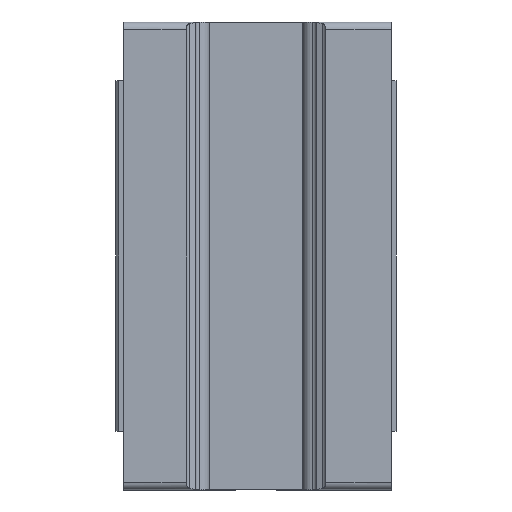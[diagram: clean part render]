
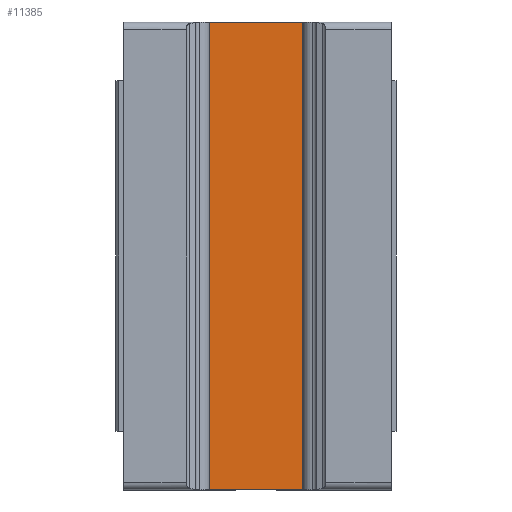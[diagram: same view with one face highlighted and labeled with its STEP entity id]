
A CAD part, front view. The second image highlights one B-rep face of the part: STEP entity #11385.
In plain terms, the highlighted planar face has unit normal (0, -1, 0).
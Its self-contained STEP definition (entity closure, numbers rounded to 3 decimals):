
#2135 = CARTESIAN_POINT ( 'NONE',  ( -8.834, 9., -10.05 ) ) ;
#2136 = DIRECTION ( 'NONE',  ( -1., 0., 0. ) ) ;
#2137 = VECTOR ( 'NONE', #2136, 1000. ) ;
#2138 = CARTESIAN_POINT ( 'NONE',  ( -9.2, 9., -10.05 ) ) ;
#2139 = LINE ( 'NONE', #2138, #2137 ) ;
#2140 = CARTESIAN_POINT ( 'NONE',  ( 8.834, 9., -10.05 ) ) ;
#3752 = CARTESIAN_POINT ( 'NONE',  ( 8.834, 9., 70.05 ) ) ;
#3753 = DIRECTION ( 'NONE',  ( 1., 0., 0. ) ) ;
#3754 = VECTOR ( 'NONE', #3753, 1000. ) ;
#3755 = CARTESIAN_POINT ( 'NONE',  ( -9.2, 9., 70.05 ) ) ;
#3756 = LINE ( 'NONE', #3755, #3754 ) ;
#3757 = CARTESIAN_POINT ( 'NONE',  ( -8.834, 9., 70.05 ) ) ;
#7082 = VERTEX_POINT ( 'NONE', #2140 ) ;
#7084 = EDGE_CURVE ( 'NONE', #7082, #7085, #2139, .T. ) ;
#7085 = VERTEX_POINT ( 'NONE', #2135 ) ;
#7756 = VERTEX_POINT ( 'NONE', #3757 ) ;
#7758 = EDGE_CURVE ( 'NONE', #7756, #7759, #3756, .T. ) ;
#7759 = VERTEX_POINT ( 'NONE', #3752 ) ;
#11385 = ADVANCED_FACE ( 'NONE', ( #13411 ), #13410, .F. ) ;
#11395 = EDGE_CURVE ( 'NONE', #7085, #7756, #13504, .T. ) ;
#11401 = EDGE_LOOP ( 'NONE', ( #11402, #11404, #11405, #11406 ) ) ;
#11402 = ORIENTED_EDGE ( 'NONE', *, *, #11403, .T. ) ;
#11403 = EDGE_CURVE ( 'NONE', #7082, #7759, #13676, .T. ) ;
#11404 = ORIENTED_EDGE ( 'NONE', *, *, #7758, .F. ) ;
#11405 = ORIENTED_EDGE ( 'NONE', *, *, #11395, .F. ) ;
#11406 = ORIENTED_EDGE ( 'NONE', *, *, #7084, .F. ) ;
#13117 = VECTOR ( 'NONE', #13167, 1000. ) ;
#13167 = DIRECTION ( 'NONE',  ( 0., 0., 1. ) ) ;
#13410 = PLANE ( 'NONE',  #13476 ) ;
#13411 = FACE_OUTER_BOUND ( 'NONE', #11401, .T. ) ;
#13473 = DIRECTION ( 'NONE',  ( 0., 0., 1. ) ) ;
#13474 = DIRECTION ( 'NONE',  ( 0., 1., 0. ) ) ;
#13475 = CARTESIAN_POINT ( 'NONE',  ( 8.834, 9., -10.1 ) ) ;
#13476 = AXIS2_PLACEMENT_3D ( 'NONE', #13475, #13474, #13473 ) ;
#13503 = CARTESIAN_POINT ( 'NONE',  ( -8.834, 9., -10.1 ) ) ;
#13504 = LINE ( 'NONE', #13503, #13117 ) ;
#13673 = DIRECTION ( 'NONE',  ( 0., 0., 1. ) ) ;
#13674 = VECTOR ( 'NONE', #13673, 1000. ) ;
#13675 = CARTESIAN_POINT ( 'NONE',  ( 8.834, 9., -10.1 ) ) ;
#13676 = LINE ( 'NONE', #13675, #13674 ) ;
